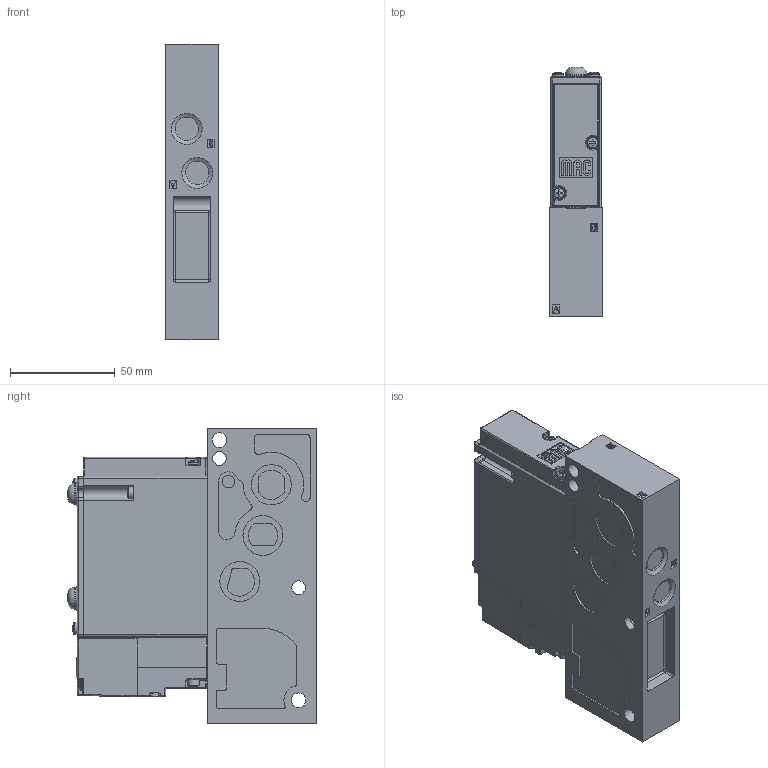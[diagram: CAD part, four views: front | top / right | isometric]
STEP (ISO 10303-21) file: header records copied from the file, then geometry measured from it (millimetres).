
FILE_DESCRIPTION (( 'STEP AP214' ), '1' );
FILE_NAME ('92A-AAA-B2J-DM-DXXP-YZZ.STEP', '2019-07-05T14:58:26', ( 'user' ), ( '' ), 'SwSTEP 2.0', 'SolidWorks 2014', '' );
FILE_SCHEMA (( 'AUTOMOTIVE_DESIGN' ));
Length unit declared in the file: millimetre
Products named in the file (6): 92-OVERRIDE-1; 92-OPERATOR-DXXP-YDM; 92-PILOT-DM; 92-BODY-AAA; 92-BASE-B2J; 92A-AAA-B2J-DM-DXXP-YZZ
Assembly tree (5 placements, depth 2):
  92A-AAA-B2J-DM-DXXP-YZZ
    92-BASE-B2J
    92-BODY-AAA
    92-PILOT-DM
    92-OPERATOR-DXXP-YDM
    92-OVERRIDE-1
Bounding box: 25 x 118.6 x 141 mm (x, y, z)
Volume: 318204.5 mm3; surface area: 72158.2 mm2
Topology: 24 solids, 30 shells, 2040 faces, 5216 edges, 3383 vertices
Faces by surface type: plane 1068, cylinder 654, cone 143, bspline 92, torus 43, sphere 40
Full cylindrical faces by diameter (mm): 0.01 x2, 0.72 x1, 0.74 x1, 0.85 x1, 0.95 x2, 1 x1, 2 x2, 2.2 x2, 2.4 x2, 2.5 x2, 2.6 x2, 2.7 x1, 2.79 x4, 3 x12, 3.15 x2, 3.25 x2, 3.3 x4, 3.35 x2, 3.6 x1, 4.775 x2, 5 x1, 5.1 x1, 5.5 x8, 5.6 x1, 6 x1, 6.22 x1, 6.6 x3, 6.8 x2, 6.92 x1, 7 x3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
Entity records: 87216 total; most frequent: CARTESIAN_POINT 15300, DIRECTION 10142, ORIENTED_EDGE 10058, EDGE_CURVE 5029, AXIS2_PLACEMENT_3D 3537, VERTEX_POINT 3361, VECTOR 3068, LINE 3068
